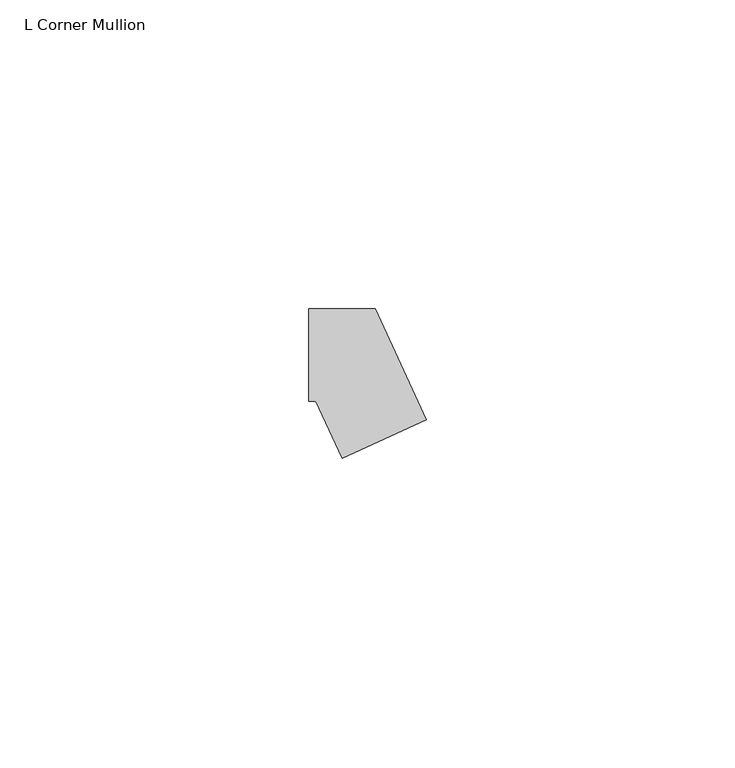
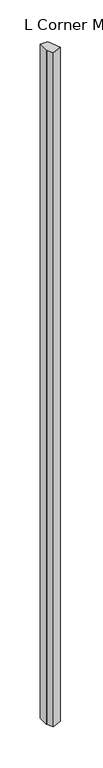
"""IFC4 building model written with IfcOpenShell, lengths in millimetres: member geometry, L Corner Mullion : ARQ_HERR_15X6mm."""

from ifc_helpers import new_model, si_unit, frame, origin, place, context, project, spatial, polyline, outline, extrude, source, transform, mapped, element, save


def l_corner_mullion_3f4548f9(model_context):
    return source(origin(), model_context, "Body", "SweptSolid", [
        extrude(outline(polyline([(-0.5775282, -16.7605627), (-4.8156946, -7.5), (-6.0, -7.5), (-6.0, 7.5), (4.8156946, 7.5), (13.0619332, -10.5183601), (-0.5775282, -16.7605627)])), frame((0.0, 0.0, -1027.9937993), z_axis=(0.0, 0.0, 1.0), x_axis=(1.0, 0.0, 0.0)), (0.0, 0.0, 1.0), 1027.9937993),
    ])


if __name__ == "__main__":
    model = new_model("IFC4")
    model_context = context("Model", 3, world=origin())
    ifc_project = project(units=[si_unit("LENGTHUNIT", "METRE", prefix="MILLI")], contexts=[model_context])
    site = spatial("IfcSite", under=ifc_project)
    building = spatial("IfcBuilding", under=site)
    placement = place(None, origin())
    l_corner_mullion_shape = l_corner_mullion_3f4548f9(model_context)
    element("IfcMember", 1, ObjectType="L Corner Mullion : ARQ_HERR_15X6mm", at=placement, inside=building, context=model_context, shape_type="MappedRepresentation", body=[
        mapped(l_corner_mullion_shape, transform((0.0, 0.0, 0.0), x_axis=(1.0, 0.0, 0.0), y_axis=(0.0, 1.0, 0.0), z_axis=(0.0, 0.0, 1.0))),
    ])
    save(model, "model.ifc")
